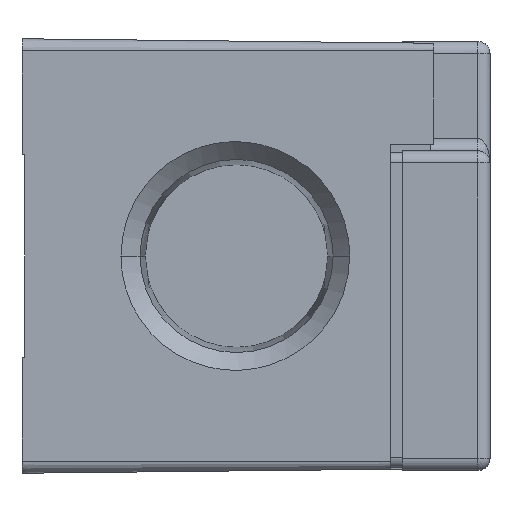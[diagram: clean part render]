
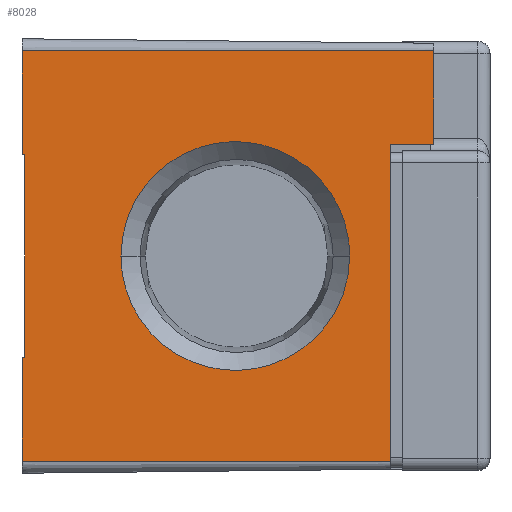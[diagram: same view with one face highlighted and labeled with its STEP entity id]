
A CAD part, front view. The second image highlights one B-rep face of the part: STEP entity #8028.
In plain terms, the highlighted planar face has unit normal (0.011, -1, 0).
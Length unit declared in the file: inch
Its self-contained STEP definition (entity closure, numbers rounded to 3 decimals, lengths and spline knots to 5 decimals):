
#1165=DIRECTION('',(0.,0.,1.));
#1166=VECTOR('',#1165,0.756);
#1167=CARTESIAN_POINT('',(-0.835,-3.20389,-0.378));
#1168=LINE('',#1167,#1166);
#1169=DIRECTION('',(1.,0.011,0.));
#1170=VECTOR('',#1169,0.01);
#1171=CARTESIAN_POINT('',(-0.845,-3.204,0.378));
#1172=LINE('',#1171,#1170);
#1173=DIRECTION('',(0.,0.,1.));
#1174=VECTOR('',#1173,0.387);
#1175=CARTESIAN_POINT('',(-0.845,-3.204,0.378));
#1176=LINE('',#1175,#1174);
#1177=DIRECTION('',(0.,0.,1.));
#1178=VECTOR('',#1177,0.348);
#1179=CARTESIAN_POINT('',(0.69,-3.18739,0.417));
#1180=LINE('',#1179,#1178);
#1181=DIRECTION('',(-1.,-0.011,0.));
#1182=VECTOR('',#1181,0.16001);
#1183=CARTESIAN_POINT('',(0.69,-3.18739,0.417));
#1184=LINE('',#1183,#1182);
#1185=DIRECTION('',(0.,0.,1.));
#1186=VECTOR('',#1185,0.387);
#1187=CARTESIAN_POINT('',(-0.845,-3.204,-0.765));
#1188=LINE('',#1187,#1186);
#1189=DIRECTION('',(1.,0.011,0.));
#1190=VECTOR('',#1189,0.01);
#1191=CARTESIAN_POINT('',(-0.845,-3.204,-0.378));
#1192=LINE('',#1191,#1190);
#1193=CARTESIAN_POINT('',(0.37678,-3.19078,0.));
#1194=CARTESIAN_POINT('',(0.37678,-3.19078,
-0.02512));
#1195=CARTESIAN_POINT('',(0.37232,-3.19083,
-0.07725));
#1196=CARTESIAN_POINT('',(0.34969,-3.19107,
-0.15743));
#1197=CARTESIAN_POINT('',(0.30997,-3.1915,
-0.23469));
#1198=CARTESIAN_POINT('',(0.25407,-3.19211,
-0.30367));
#1199=CARTESIAN_POINT('',(0.19659,-3.19273,
-0.35024));
#1200=CARTESIAN_POINT('',(0.14646,-3.19327,
-0.37943));
#1201=CARTESIAN_POINT('',(0.10746,-3.19369,
-0.39714));
#1202=CARTESIAN_POINT('',(0.06773,-3.19412,
-0.4106));
#1203=CARTESIAN_POINT('',(0.03453,-3.19448,
-0.41836));
#1204=CARTESIAN_POINT('',(0.00822,-3.19477,
-0.42258));
#1205=CARTESIAN_POINT('',(-0.01134,-3.19498,
-0.4248));
#1206=CARTESIAN_POINT('',(-0.02743,-3.19515,
-0.42587));
#1207=CARTESIAN_POINT('',(-0.04017,-3.19529,
-0.4263));
#1208=CARTESIAN_POINT('',(-0.04961,-3.19539,
-0.4264));
#1209=CARTESIAN_POINT('',(-0.05906,-3.19549,
-0.4263));
#1210=CARTESIAN_POINT('',(-0.07179,-3.19563,
-0.42587));
#1211=CARTESIAN_POINT('',(-0.08789,-3.19581,
-0.4248));
#1212=CARTESIAN_POINT('',(-0.10744,-3.19602,
-0.42258));
#1213=CARTESIAN_POINT('',(-0.13376,-3.1963,
-0.41836));
#1214=CARTESIAN_POINT('',(-0.16696,-3.19666,
-0.4106));
#1215=CARTESIAN_POINT('',(-0.20669,-3.19709,
-0.39714));
#1216=CARTESIAN_POINT('',(-0.24569,-3.19751,
-0.37943));
#1217=CARTESIAN_POINT('',(-0.29582,-3.19806,
-0.35024));
#1218=CARTESIAN_POINT('',(-0.3533,-3.19868,
-0.30367));
#1219=CARTESIAN_POINT('',(-0.4092,-3.19928,
-0.23469));
#1220=CARTESIAN_POINT('',(-0.44892,-3.19971,
-0.15743));
#1221=CARTESIAN_POINT('',(-0.47154,-3.19996,
-0.07725));
#1222=CARTESIAN_POINT('',(-0.47601,-3.20001,
-0.02512));
#1223=CARTESIAN_POINT('',(-0.47601,-3.20001,0.));
#1225=CARTESIAN_POINT('',(-0.47601,-3.20001,0.));
#1226=CARTESIAN_POINT('',(-0.47601,-3.20001,
0.02512));
#1227=CARTESIAN_POINT('',(-0.47154,-3.19996,
0.07725));
#1228=CARTESIAN_POINT('',(-0.44892,-3.19971,
0.15743));
#1229=CARTESIAN_POINT('',(-0.4092,-3.19928,
0.23469));
#1230=CARTESIAN_POINT('',(-0.3533,-3.19868,
0.30367));
#1231=CARTESIAN_POINT('',(-0.29582,-3.19806,
0.35024));
#1232=CARTESIAN_POINT('',(-0.24569,-3.19751,
0.37943));
#1233=CARTESIAN_POINT('',(-0.20669,-3.19709,
0.39714));
#1234=CARTESIAN_POINT('',(-0.16696,-3.19666,
0.4106));
#1235=CARTESIAN_POINT('',(-0.13376,-3.1963,
0.41836));
#1236=CARTESIAN_POINT('',(-0.10744,-3.19602,
0.42258));
#1237=CARTESIAN_POINT('',(-0.08789,-3.19581,
0.4248));
#1238=CARTESIAN_POINT('',(-0.07179,-3.19563,
0.42587));
#1239=CARTESIAN_POINT('',(-0.05906,-3.19549,
0.4263));
#1240=CARTESIAN_POINT('',(-0.04961,-3.19539,
0.4264));
#1241=CARTESIAN_POINT('',(-0.04017,-3.19529,
0.4263));
#1242=CARTESIAN_POINT('',(-0.02743,-3.19515,
0.42587));
#1243=CARTESIAN_POINT('',(-0.01134,-3.19498,
0.4248));
#1244=CARTESIAN_POINT('',(0.00822,-3.19477,
0.42258));
#1245=CARTESIAN_POINT('',(0.03453,-3.19448,
0.41836));
#1246=CARTESIAN_POINT('',(0.06773,-3.19412,
0.4106));
#1247=CARTESIAN_POINT('',(0.10746,-3.19369,
0.39714));
#1248=CARTESIAN_POINT('',(0.14646,-3.19327,
0.37943));
#1249=CARTESIAN_POINT('',(0.19659,-3.19273,
0.35024));
#1250=CARTESIAN_POINT('',(0.25407,-3.19211,
0.30367));
#1251=CARTESIAN_POINT('',(0.30997,-3.1915,
0.23469));
#1252=CARTESIAN_POINT('',(0.34969,-3.19107,
0.15743));
#1253=CARTESIAN_POINT('',(0.37232,-3.19083,
0.07725));
#1254=CARTESIAN_POINT('',(0.37678,-3.19078,
0.02512));
#1255=CARTESIAN_POINT('',(0.37678,-3.19078,0.));
#1570=DIRECTION('',(0.,0.,1.));
#1571=VECTOR('',#1570,1.182);
#1572=CARTESIAN_POINT('',(0.53,-3.18912,-0.765));
#1573=LINE('',#1572,#1571);
#3338=DIRECTION('',(1.,0.011,0.));
#3339=VECTOR('',#3338,1.53509);
#3340=CARTESIAN_POINT('',(-0.845,-3.204,0.765));
#3341=LINE('',#3340,#3339);
#3766=DIRECTION('',(1.,0.011,0.));
#3767=VECTOR('',#3766,1.37508);
#3768=CARTESIAN_POINT('',(-0.845,-3.204,-0.765));
#3769=LINE('',#3768,#3767);
#6079=CARTESIAN_POINT('',(0.69,-3.18739,0.417));
#6080=CARTESIAN_POINT('',(0.53,-3.18912,0.417));
#6081=VERTEX_POINT('',#6079);
#6082=VERTEX_POINT('',#6080);
#6087=CARTESIAN_POINT('',(-0.845,-3.204,0.765));
#6088=CARTESIAN_POINT('',(0.69,-3.18739,0.765));
#6089=VERTEX_POINT('',#6087);
#6090=VERTEX_POINT('',#6088);
#6095=CARTESIAN_POINT('',(-0.845,-3.204,-0.765));
#6096=CARTESIAN_POINT('',(0.53,-3.18912,-0.765));
#6097=VERTEX_POINT('',#6095);
#6098=VERTEX_POINT('',#6096);
#6115=CARTESIAN_POINT('',(-0.835,-3.20389,-0.378));
#6116=CARTESIAN_POINT('',(-0.835,-3.20389,0.378));
#6117=VERTEX_POINT('',#6115);
#6118=VERTEX_POINT('',#6116);
#6119=CARTESIAN_POINT('',(-0.845,-3.204,-0.378));
#6120=VERTEX_POINT('',#6119);
#6121=CARTESIAN_POINT('',(-0.845,-3.204,0.378));
#6122=VERTEX_POINT('',#6121);
#6123=VERTEX_POINT('',#1193);
#6124=VERTEX_POINT('',#1223);
#7998=CARTESIAN_POINT('',(-0.845,-3.204,-1.81479));
#7999=DIRECTION('',(0.011,-1.,0.));
#8000=DIRECTION('',(0.,0.,1.));
#8001=AXIS2_PLACEMENT_3D('',#7998,#7999,#8000);
#8002=PLANE('',#8001);
#8003=ORIENTED_EDGE('',*,*,#7897,.T.);
#8005=ORIENTED_EDGE('',*,*,#8004,.F.);
#8007=ORIENTED_EDGE('',*,*,#8006,.T.);
#8009=ORIENTED_EDGE('',*,*,#8008,.T.);
#8011=ORIENTED_EDGE('',*,*,#8010,.F.);
#8013=ORIENTED_EDGE('',*,*,#8012,.T.);
#8015=ORIENTED_EDGE('',*,*,#8014,.F.);
#8017=ORIENTED_EDGE('',*,*,#8016,.F.);
#8018=ORIENTED_EDGE('',*,*,#7971,.T.);
#8019=ORIENTED_EDGE('',*,*,#7993,.T.);
#8020=EDGE_LOOP('',(#8003,#8005,#8007,#8009,#8011,#8013,#8015,#8017,#8018,
#8019));
#8021=FACE_OUTER_BOUND('',#8020,.F.);
#8023=ORIENTED_EDGE('',*,*,#8022,.F.);
#8025=ORIENTED_EDGE('',*,*,#8024,.F.);
#8026=EDGE_LOOP('',(#8023,#8025));
#8027=FACE_BOUND('',#8026,.F.);
#8028=ADVANCED_FACE('',(#8021,#8027),#8002,.T.);
#1224=B_SPLINE_CURVE_WITH_KNOTS('',3,(#1193,#1194,#1195,#1196,#1197,#1198,#1199,
#1200,#1201,#1202,#1203,#1204,#1205,#1206,#1207,#1208,#1209,#1210,#1211,#1212,
#1213,#1214,#1215,#1216,#1217,#1218,#1219,#1220,#1221,#1222,#1223),
.UNSPECIFIED.,.F.,.F.,(4,1,1,1,1,1,1,1,1,1,1,1,1,1,1,1,1,1,1,1,1,1,1,1,1,1,1,1,
4),(0.,0.0625,0.125,0.1875,0.25,0.3125,0.34375,0.375,0.40625,
0.4375,0.45313,0.46875,0.48438,0.49219,0.5,0.50781,
0.51563,0.53125,0.54688,0.5625,0.59375,0.625,0.65625,0.6875,
0.75,0.8125,0.875,0.9375,1.),.UNSPECIFIED.);
#1256=B_SPLINE_CURVE_WITH_KNOTS('',3,(#1225,#1226,#1227,#1228,#1229,#1230,#1231,
#1232,#1233,#1234,#1235,#1236,#1237,#1238,#1239,#1240,#1241,#1242,#1243,#1244,
#1245,#1246,#1247,#1248,#1249,#1250,#1251,#1252,#1253,#1254,#1255),
.UNSPECIFIED.,.F.,.F.,(4,1,1,1,1,1,1,1,1,1,1,1,1,1,1,1,1,1,1,1,1,1,1,1,1,1,1,1,
4),(0.,0.0625,0.125,0.1875,0.25,0.3125,0.34375,0.375,0.40625,
0.4375,0.45313,0.46875,0.48438,0.49219,0.5,0.50781,
0.51563,0.53125,0.54688,0.5625,0.59375,0.625,0.65625,0.6875,
0.75,0.8125,0.875,0.9375,1.),.UNSPECIFIED.);
#7897=EDGE_CURVE('',#6117,#6118,#1168,.T.);
#7971=EDGE_CURVE('',#6097,#6120,#1188,.T.);
#7993=EDGE_CURVE('',#6120,#6117,#1192,.T.);
#8004=EDGE_CURVE('',#6122,#6118,#1172,.T.);
#8006=EDGE_CURVE('',#6122,#6089,#1176,.T.);
#8008=EDGE_CURVE('',#6089,#6090,#3341,.T.);
#8010=EDGE_CURVE('',#6081,#6090,#1180,.T.);
#8012=EDGE_CURVE('',#6081,#6082,#1184,.T.);
#8014=EDGE_CURVE('',#6098,#6082,#1573,.T.);
#8016=EDGE_CURVE('',#6097,#6098,#3769,.T.);
#8022=EDGE_CURVE('',#6123,#6124,#1224,.T.);
#8024=EDGE_CURVE('',#6124,#6123,#1256,.T.);
